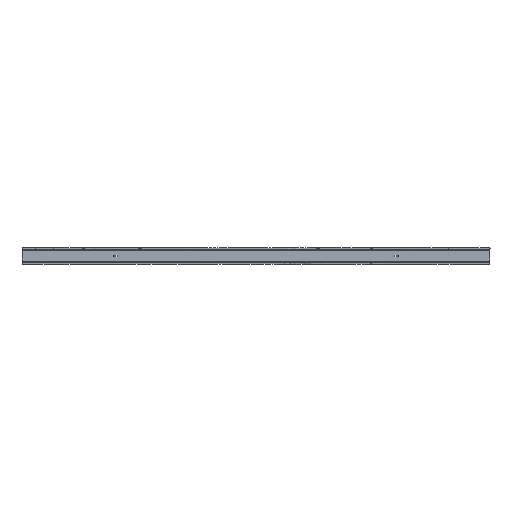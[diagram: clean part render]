
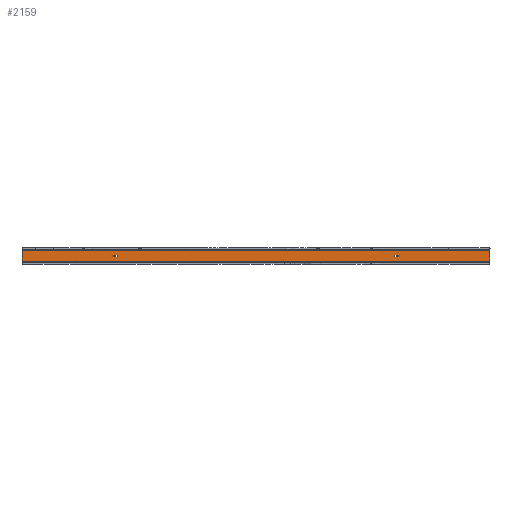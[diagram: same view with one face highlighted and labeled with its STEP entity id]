
A CAD part, top view. The second image highlights one B-rep face of the part: STEP entity #2159.
In plain terms, the highlighted free-form (B-spline) face has degree [2, 1] with [11, 2] control points.
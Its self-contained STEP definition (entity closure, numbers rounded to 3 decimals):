
#96=FACE_BOUND('',#291,.T.);
#97=FACE_BOUND('',#292,.T.);
#110=(
BOUNDED_CURVE()
B_SPLINE_CURVE(2,(#3160,#3161,#3162,#3163,#3164,#3165,#3166,#3167,#3168,
#3169,#3170),.UNSPECIFIED.,.F.,.F.)
B_SPLINE_CURVE_WITH_KNOTS((3,2,2,2,2,3),(218.186,221.239,
223.595,234.996,238.138,266.423),
 .UNSPECIFIED.)
CURVE()
GEOMETRIC_REPRESENTATION_ITEM()
RATIONAL_B_SPLINE_CURVE((1.,1.,1.,0.707,1.,1.,1.,0.707,
1.,1.,1.))
REPRESENTATION_ITEM('')
);
#111=(
BOUNDED_CURVE()
B_SPLINE_CURVE(2,(#3171,#3172,#3173,#3174,#3175,#3176,#3177,#3178,#3179,
#3180,#3181),.UNSPECIFIED.,.F.,.F.)
B_SPLINE_CURVE_WITH_KNOTS((3,2,2,2,2,3),(218.186,221.239,
223.595,234.996,238.138,266.423),
 .UNSPECIFIED.)
CURVE()
GEOMETRIC_REPRESENTATION_ITEM()
RATIONAL_B_SPLINE_CURVE((1.,1.,1.,0.707,1.,1.,1.,0.707,
1.,1.,1.))
REPRESENTATION_ITEM('')
);
#118=(
BOUNDED_SURFACE()
B_SPLINE_SURFACE(2,1,((#3138,#3139),(#3140,#3141),(#3142,#3143),(#3144,
#3145),(#3146,#3147),(#3148,#3149),(#3150,#3151),(#3152,#3153),(#3154,#3155),
(#3156,#3157),(#3158,#3159)),.UNSPECIFIED.,.F.,.F.,.F.)
B_SPLINE_SURFACE_WITH_KNOTS((3,2,2,2,2,3),(2,2),(218.186,221.239,
223.595,234.996,238.138,266.423),(0.,
100.),.UNSPECIFIED.)
GEOMETRIC_REPRESENTATION_ITEM()
RATIONAL_B_SPLINE_SURFACE(((1.,1.),(1.,1.),(1.,1.),(0.707,0.707),
(1.,1.),(1.,1.),(1.,1.),(0.707,0.707),(1.,1.),(1.,1.),
(1.,1.)))
REPRESENTATION_ITEM('')
SURFACE()
);
#130=CIRCLE('',#2267,2.);
#132=CIRCLE('',#2271,2.);
#134=CIRCLE('',#2275,2.);
#136=CIRCLE('',#2279,2.);
#170=FACE_OUTER_BOUND('',#290,.T.);
#290=EDGE_LOOP('',(#1536,#1537,#1538,#1539));
#291=EDGE_LOOP('',(#1540,#1541,#1542,#1543));
#292=EDGE_LOOP('',(#1544,#1545,#1546,#1547));
#492=LINE('',#2684,#674);
#496=LINE('',#2701,#678);
#498=LINE('',#2714,#680);
#502=LINE('',#2731,#684);
#505=LINE('',#2746,#687);
#552=LINE('',#3137,#734);
#674=VECTOR('',#2346,10.);
#678=VECTOR('',#2358,10.);
#680=VECTOR('',#2368,10.);
#684=VECTOR('',#2380,10.);
#687=VECTOR('',#2391,10.);
#734=VECTOR('',#2464,10.);
#856=VERTEX_POINT('',#2682);
#857=VERTEX_POINT('',#2683);
#860=VERTEX_POINT('',#2694);
#862=VERTEX_POINT('',#2700);
#864=VERTEX_POINT('',#2712);
#865=VERTEX_POINT('',#2713);
#868=VERTEX_POINT('',#2724);
#870=VERTEX_POINT('',#2730);
#873=VERTEX_POINT('',#2743);
#874=VERTEX_POINT('',#2745);
#912=VERTEX_POINT('',#3117);
#913=VERTEX_POINT('',#3127);
#1080=EDGE_CURVE('',#856,#857,#492,.T.);
#1084=EDGE_CURVE('',#857,#860,#130,.T.);
#1087=EDGE_CURVE('',#860,#862,#496,.T.);
#1090=EDGE_CURVE('',#862,#856,#132,.T.);
#1092=EDGE_CURVE('',#864,#865,#498,.T.);
#1096=EDGE_CURVE('',#865,#868,#134,.T.);
#1099=EDGE_CURVE('',#868,#870,#502,.T.);
#1102=EDGE_CURVE('',#870,#864,#136,.T.);
#1105=EDGE_CURVE('',#873,#874,#505,.T.);
#1164=EDGE_CURVE('',#912,#913,#552,.T.);
#1165=EDGE_CURVE('',#873,#912,#110,.T.);
#1166=EDGE_CURVE('',#874,#913,#111,.T.);
#1536=ORIENTED_EDGE('',*,*,#1165,.T.);
#1537=ORIENTED_EDGE('',*,*,#1164,.T.);
#1538=ORIENTED_EDGE('',*,*,#1166,.F.);
#1539=ORIENTED_EDGE('',*,*,#1105,.F.);
#1540=ORIENTED_EDGE('',*,*,#1080,.T.);
#1541=ORIENTED_EDGE('',*,*,#1084,.T.);
#1542=ORIENTED_EDGE('',*,*,#1087,.T.);
#1543=ORIENTED_EDGE('',*,*,#1090,.T.);
#1544=ORIENTED_EDGE('',*,*,#1092,.T.);
#1545=ORIENTED_EDGE('',*,*,#1096,.T.);
#1546=ORIENTED_EDGE('',*,*,#1099,.T.);
#1547=ORIENTED_EDGE('',*,*,#1102,.T.);
#2159=ADVANCED_FACE('',(#170,#96,#97),#118,.T.);
#2267=AXIS2_PLACEMENT_3D('',#2695,#2351,#2352);
#2271=AXIS2_PLACEMENT_3D('',#2709,#2362,#2363);
#2275=AXIS2_PLACEMENT_3D('',#2725,#2373,#2374);
#2279=AXIS2_PLACEMENT_3D('',#2739,#2384,#2385);
#2346=DIRECTION('',(1.,0.,0.));
#2351=DIRECTION('center_axis',(0.,0.,-1.));
#2352=DIRECTION('ref_axis',(0.,-1.,0.));
#2358=DIRECTION('',(-1.,0.,0.));
#2362=DIRECTION('center_axis',(0.,0.,-1.));
#2363=DIRECTION('ref_axis',(0.,1.,0.));
#2368=DIRECTION('',(-1.,0.,0.));
#2373=DIRECTION('center_axis',(0.,0.,-1.));
#2374=DIRECTION('ref_axis',(0.,1.,0.));
#2380=DIRECTION('',(1.,0.,0.));
#2384=DIRECTION('center_axis',(0.,0.,-1.));
#2385=DIRECTION('ref_axis',(0.,-1.,0.));
#2391=DIRECTION('',(1.,0.,0.));
#2464=DIRECTION('',(1.,0.,0.));
#2682=CARTESIAN_POINT('',(197.,2.,1.5));
#2683=CARTESIAN_POINT('',(203.,2.,1.5));
#2684=CARTESIAN_POINT('',(203.,2.,1.5));
#2694=CARTESIAN_POINT('',(203.,-2.,1.5));
#2695=CARTESIAN_POINT('Origin',(203.,0.,1.5));
#2700=CARTESIAN_POINT('',(197.,-2.,1.5));
#2701=CARTESIAN_POINT('',(197.,-2.,1.5));
#2709=CARTESIAN_POINT('Origin',(197.,0.,1.5));
#2712=CARTESIAN_POINT('',(803.,-2.,1.5));
#2713=CARTESIAN_POINT('',(797.,-2.,1.5));
#2714=CARTESIAN_POINT('',(797.,-2.,1.5));
#2724=CARTESIAN_POINT('',(797.,2.,1.5));
#2725=CARTESIAN_POINT('Origin',(797.,0.,1.5));
#2730=CARTESIAN_POINT('',(803.,2.,1.5));
#2731=CARTESIAN_POINT('',(803.,2.,1.5));
#2739=CARTESIAN_POINT('Origin',(803.,0.,1.5));
#2743=CARTESIAN_POINT('',(0.,11.59,16.401));
#2745=CARTESIAN_POINT('',(1000.,11.59,16.401));
#2746=CARTESIAN_POINT('',(0.,11.59,16.401));
#3117=CARTESIAN_POINT('',(0.,-14.143,1.5));
#3127=CARTESIAN_POINT('',(1000.,-14.143,1.5));
#3137=CARTESIAN_POINT('',(0.,-14.143,1.5));
#3138=CARTESIAN_POINT('Ctrl Pts',(0.,11.59,16.401));
#3139=CARTESIAN_POINT('Ctrl Pts',(1000.,11.59,16.401));
#3140=CARTESIAN_POINT('Ctrl Pts',(0.,13.116,16.401));
#3141=CARTESIAN_POINT('Ctrl Pts',(1000.,13.116,16.401));
#3142=CARTESIAN_POINT('Ctrl Pts',(0.,14.643,16.401));
#3143=CARTESIAN_POINT('Ctrl Pts',(1000.,14.643,16.401));
#3144=CARTESIAN_POINT('Ctrl Pts',(0.,16.143,16.401));
#3145=CARTESIAN_POINT('Ctrl Pts',(1000.,16.143,16.401));
#3146=CARTESIAN_POINT('Ctrl Pts',(0.,16.143,14.901));
#3147=CARTESIAN_POINT('Ctrl Pts',(1000.,16.143,14.901));
#3148=CARTESIAN_POINT('Ctrl Pts',(0.,16.143,9.2));
#3149=CARTESIAN_POINT('Ctrl Pts',(1000.,16.143,9.2));
#3150=CARTESIAN_POINT('Ctrl Pts',(0.,16.143,3.5));
#3151=CARTESIAN_POINT('Ctrl Pts',(1000.,16.143,3.5));
#3152=CARTESIAN_POINT('Ctrl Pts',(0.,16.143,1.5));
#3153=CARTESIAN_POINT('Ctrl Pts',(1000.,16.143,1.5));
#3154=CARTESIAN_POINT('Ctrl Pts',(0.,14.143,1.5));
#3155=CARTESIAN_POINT('Ctrl Pts',(1000.,14.143,1.5));
#3156=CARTESIAN_POINT('Ctrl Pts',(0.,0.,1.5));
#3157=CARTESIAN_POINT('Ctrl Pts',(1000.,0.,1.5));
#3158=CARTESIAN_POINT('Ctrl Pts',(0.,-14.143,1.5));
#3159=CARTESIAN_POINT('Ctrl Pts',(1000.,-14.143,1.5));
#3160=CARTESIAN_POINT('Ctrl Pts',(0.,11.59,16.401));
#3161=CARTESIAN_POINT('Ctrl Pts',(0.,13.116,16.401));
#3162=CARTESIAN_POINT('Ctrl Pts',(0.,14.643,16.401));
#3163=CARTESIAN_POINT('Ctrl Pts',(0.,16.143,16.401));
#3164=CARTESIAN_POINT('Ctrl Pts',(0.,16.143,14.901));
#3165=CARTESIAN_POINT('Ctrl Pts',(0.,16.143,9.2));
#3166=CARTESIAN_POINT('Ctrl Pts',(0.,16.143,3.5));
#3167=CARTESIAN_POINT('Ctrl Pts',(0.,16.143,1.5));
#3168=CARTESIAN_POINT('Ctrl Pts',(0.,14.143,1.5));
#3169=CARTESIAN_POINT('Ctrl Pts',(0.,0.,1.5));
#3170=CARTESIAN_POINT('Ctrl Pts',(0.,-14.143,1.5));
#3171=CARTESIAN_POINT('Ctrl Pts',(1000.,11.59,16.401));
#3172=CARTESIAN_POINT('Ctrl Pts',(1000.,13.116,16.401));
#3173=CARTESIAN_POINT('Ctrl Pts',(1000.,14.643,16.401));
#3174=CARTESIAN_POINT('Ctrl Pts',(1000.,16.143,16.401));
#3175=CARTESIAN_POINT('Ctrl Pts',(1000.,16.143,14.901));
#3176=CARTESIAN_POINT('Ctrl Pts',(1000.,16.143,9.2));
#3177=CARTESIAN_POINT('Ctrl Pts',(1000.,16.143,3.5));
#3178=CARTESIAN_POINT('Ctrl Pts',(1000.,16.143,1.5));
#3179=CARTESIAN_POINT('Ctrl Pts',(1000.,14.143,1.5));
#3180=CARTESIAN_POINT('Ctrl Pts',(1000.,0.,1.5));
#3181=CARTESIAN_POINT('Ctrl Pts',(1000.,-14.143,1.5));
